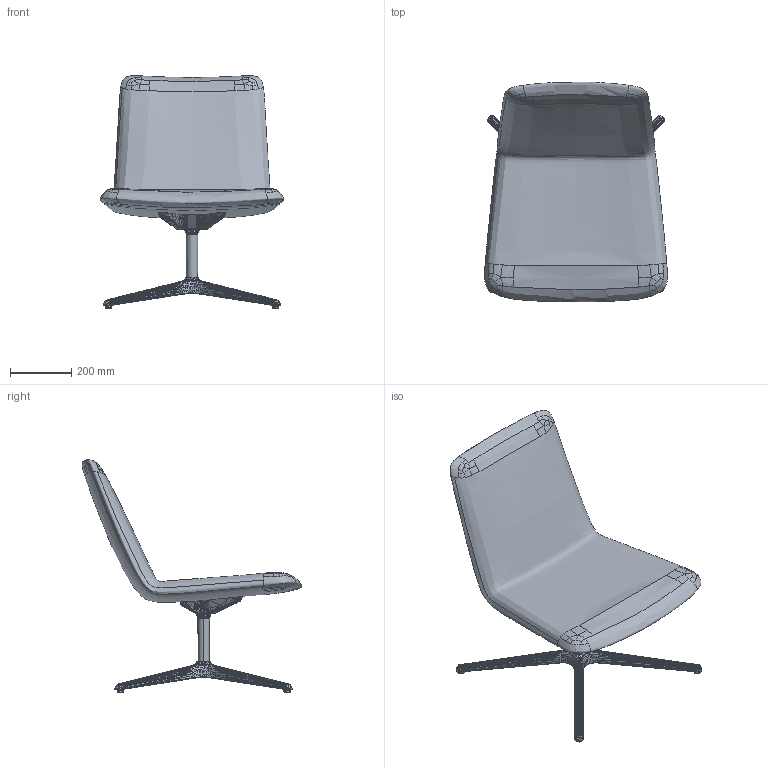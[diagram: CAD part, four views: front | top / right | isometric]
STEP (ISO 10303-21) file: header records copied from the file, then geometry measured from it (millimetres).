
FILE_DESCRIPTION(/* description */ (''),/* implementation_level */ '2;1');
FILE_NAME(/* name */ 'FAN-CH~1',/* time_stamp */ '2021-08-28T11:05:42+08:00',/* author */ (''),/* organization */ (''),/* preprocessor_version */ 'ST-DEVELOPER v16.5',/* originating_system */ '',/* authorisation */ '');
FILE_SCHEMA (('CONFIG_CONTROL_DESIGN'));
Products named in the file (1): Document
Bounding box: 598 x 716.12 x 757.98 mm (x, y, z)
Volume: 31332075.5 mm3; surface area: 1363499.7 mm2
Topology: 10 solids, 10 shells, 7241 faces, 11471 edges, 4240 vertices
Faces by surface type: plane 6113, bspline 1124, cylinder 4
Entity records: 136373 total; most frequent: CARTESIAN_POINT 44969, ORIENTED_EDGE 22942, EDGE_CURVE 11471, B_SPLINE_CURVE_WITH_KNOTS 11449, EDGE_LOOP 7243, ADVANCED_FACE 7241, FACE_OUTER_BOUND 7241, DIRECTION 6121
